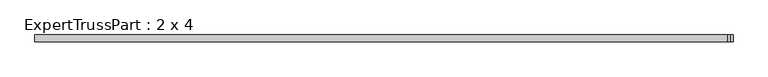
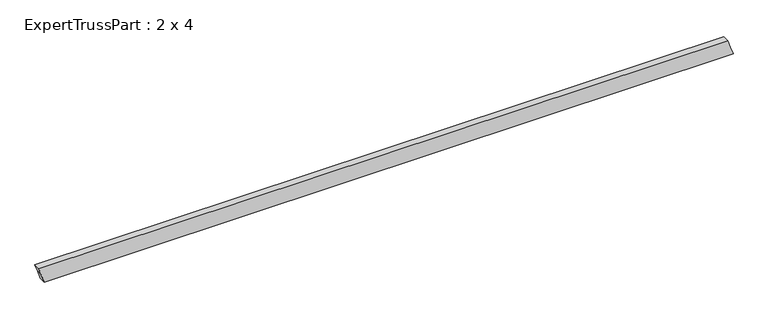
"""IFC4 building model written with IfcOpenShell, lengths in millimetres: beam geometry, ExpertTrussPart : 2 x 4."""

from ifc_helpers import new_model, si_unit, frame, origin, place, context, project, spatial, polyline, outline, extrude, source, transform, mapped, element, save


def experttrusspart_2_x_4_22083bb8(model_context):
    return source(origin(), model_context, "Body", "SweptSolid", [
        extrude(outline(polyline([(88.9, -1931.5393851), (44.45, -1917.031399), (0.0, -1902.5234129), (0.0, 1931.5393851), (44.45, 1917.031399), (88.9, 1902.5234129), (88.9, -1931.5393851)])), frame((0.0, -19.05, 0.0), z_axis=(0.0, 1.0, 0.0), x_axis=(0.0, 0.0, 1.0)), (0.0, 0.0, 1.0), 38.1),
    ])


if __name__ == "__main__":
    model = new_model("IFC4")
    model_context = context("Model", 3, world=origin())
    ifc_project = project(units=[si_unit("LENGTHUNIT", "METRE", prefix="MILLI")], contexts=[model_context])
    site = spatial("IfcSite", under=ifc_project)
    building = spatial("IfcBuilding", under=site)
    placement = place(None, origin())
    experttrusspart_2_x_4_shape = experttrusspart_2_x_4_22083bb8(model_context)
    element("IfcBeam", 1, ObjectType="ExpertTrussPart : 2 x 4", at=placement, inside=building, context=model_context, shape_type="MappedRepresentation", body=[
        mapped(experttrusspart_2_x_4_shape, transform((0.0, 0.0, 0.0), x_axis=(1.0, 0.0, 0.0), y_axis=(0.0, 1.0, 0.0), z_axis=(0.0, 0.0, 1.0))),
    ])
    save(model, "model.ifc")
